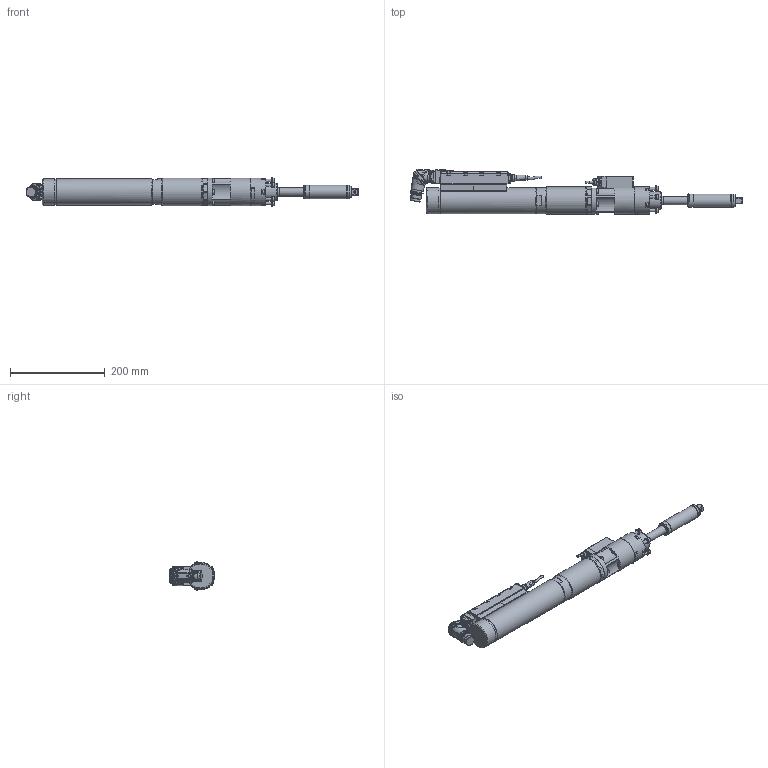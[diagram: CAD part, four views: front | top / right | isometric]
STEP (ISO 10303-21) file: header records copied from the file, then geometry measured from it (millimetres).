
FILE_DESCRIPTION (( 'STEP AP214' ), '1' );
FILE_NAME ('70082445_ESX213DAX140AZX250.STEP', '2016-11-14T10:43:58', ( 'admin' ), ( '' ), 'SwSTEP 2.0', 'SolidWorks 2014', '' );
FILE_SCHEMA (( 'AUTOMOTIVE_DESIGN' ));
Length unit declared in the file: millimetre
Products named in the file (11): 7002049_3; 70082371; 70082342; 70082304_ESX213_Standard_Winkel; 70082293_2; 70057493_Standard_winkel; 70057493_4; 70057493_3; 70057493_2; 70082304; 70082445_ESX213DAX140AZX250
Assembly tree (10 placements, depth 4):
  70082445_ESX213DAX140AZX250
    70082304_ESX213_Standard_Winkel
      70082304
      70057493_Standard_winkel
        70057493_2
        70057493_3
        70057493_4
      70082293_2
    70082342
    70082371
    7002049_3
Bounding box: 700.46 x 95.64 x 59.55 mm (x, y, z)
Volume: 1543939.6 mm3; surface area: 198783 mm2
Topology: 12 solids, 13 shells, 2449 faces, 6343 edges, 4110 vertices
Faces by surface type: plane 1211, cylinder 653, bspline 263, cone 251, torus 66, sphere 5
Full cylindrical faces by diameter (mm): 0.5 x7, 0.57 x14, 1.6 x3, 2 x3, 3 x4, 4.2 x11, 4.5 x1, 4.9 x3, 5 x32, 5.5 x12, 6 x6, 8.459 x2, 8.5 x10, 9 x12, 10 x5, 11.08 x1, 12 x5, 12.3 x1, 14 x2, 14.5 x2, 17.3 x1, 17.4 x1, 17.5 x1, 20 x2, 21.15 x1, 21.5 x1, 21.7 x1, 22 x1, 22.3 x1, 24 x1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
Entity records: 86009 total; most frequent: CARTESIAN_POINT 28731, ORIENTED_EDGE 11638, DIRECTION 10320, EDGE_CURVE 5819, VERTEX_POINT 3948, AXIS2_PLACEMENT_3D 3824, EDGE_LOOP 3011, FACE_OUTER_BOUND 2674
